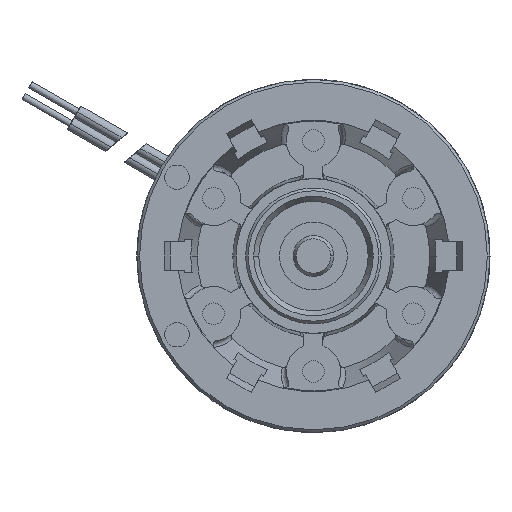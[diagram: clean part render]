
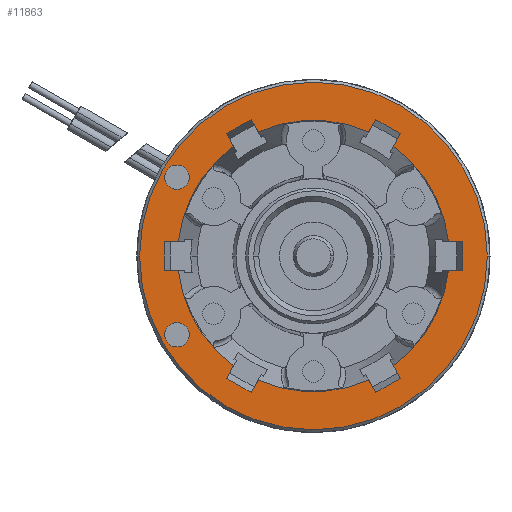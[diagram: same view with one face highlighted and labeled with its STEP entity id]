
A CAD part, left-side view. The second image highlights one B-rep face of the part: STEP entity #11863.
In plain terms, the highlighted planar face has unit normal (-1, 0, 0).
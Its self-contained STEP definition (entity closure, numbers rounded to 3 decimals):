
#3474=CARTESIAN_POINT('',(-1.6,9.945,1.05));
#3484=CARTESIAN_POINT('',(-1.6,0.,0.));
#3485=DIRECTION('',(1.,0.,0.));
#3486=DIRECTION('',(0.,0.994,0.105));
#3487=AXIS2_PLACEMENT_3D('',#3484,#3485,#3486);
#3538=CARTESIAN_POINT('',(-1.6,4.063,9.137));
#3548=CARTESIAN_POINT('',(-1.6,0.,0.));
#3549=DIRECTION('',(1.,0.,0.));
#3550=DIRECTION('',(0.,0.406,0.914));
#3551=AXIS2_PLACEMENT_3D('',#3548,#3549,#3550);
#3602=CARTESIAN_POINT('',(-1.6,-5.882,8.087));
#3612=CARTESIAN_POINT('',(-1.6,0.,0.));
#3613=DIRECTION('',(1.,0.,0.));
#3614=DIRECTION('',(0.,-0.588,0.809));
#3615=AXIS2_PLACEMENT_3D('',#3612,#3613,#3614);
#3676=CARTESIAN_POINT('',(-1.6,0.,0.));
#3677=DIRECTION('',(-1.,0.,0.));
#3678=DIRECTION('',(0.,0.994,-0.105));
#3679=AXIS2_PLACEMENT_3D('',#3676,#3677,#3678);
#3689=CARTESIAN_POINT('',(-1.6,9.945,-1.05));
#3816=CARTESIAN_POINT('',(-1.6,-9.945,-1.05));
#3826=CARTESIAN_POINT('',(-1.6,0.,0.));
#3827=DIRECTION('',(-1.,0.,0.));
#3828=DIRECTION('',(0.,-0.588,-0.809));
#3829=AXIS2_PLACEMENT_3D('',#3826,#3827,#3828);
#3880=CARTESIAN_POINT('',(-1.6,-4.063,-9.137));
#3890=CARTESIAN_POINT('',(-1.6,0.,0.));
#3891=DIRECTION('',(-1.,0.,0.));
#3892=DIRECTION('',(0.,0.406,-0.914));
#3893=AXIS2_PLACEMENT_3D('',#3890,#3891,#3892);
#3961=CARTESIAN_POINT('',(-1.6,0.,0.));
#3962=DIRECTION('',(-1.,0.,0.));
#3963=DIRECTION('',(0.,1.,0.));
#3964=AXIS2_PLACEMENT_3D('',#3961,#3962,#3963);
#3969=CARTESIAN_POINT('',(-1.6,0.,0.));
#3970=DIRECTION('',(-1.,0.,0.));
#3971=DIRECTION('',(0.,-1.,0.));
#3972=AXIS2_PLACEMENT_3D('',#3969,#3970,#3971);
#3977=CARTESIAN_POINT('',(-1.6,10.05,5.8));
#3978=DIRECTION('',(-1.,0.,0.));
#3979=DIRECTION('',(0.,0.,1.));
#3980=AXIS2_PLACEMENT_3D('',#3977,#3978,#3979);
#3985=CARTESIAN_POINT('',(-1.6,10.05,5.8));
#3986=DIRECTION('',(-1.,0.,0.));
#3987=DIRECTION('',(0.,0.,-1.));
#3988=AXIS2_PLACEMENT_3D('',#3985,#3986,#3987);
#3993=CARTESIAN_POINT('',(-1.6,10.05,-5.8));
#3994=DIRECTION('',(-1.,0.,0.));
#3995=DIRECTION('',(0.,0.,1.));
#3996=AXIS2_PLACEMENT_3D('',#3993,#3994,#3995);
#4001=CARTESIAN_POINT('',(-1.6,10.05,-5.8));
#4002=DIRECTION('',(-1.,0.,0.));
#4003=DIRECTION('',(0.,0.,-1.));
#4004=AXIS2_PLACEMENT_3D('',#4001,#4002,#4003);
#4009=DIRECTION('',(0.,-0.5,0.866));
#4010=VECTOR('',#4009,1.055);
#4011=CARTESIAN_POINT('',(-1.6,4.591,-10.051));
#4012=LINE('',#4011,#4010);
#4016=DIRECTION('',(0.,-0.5,-0.866));
#4017=VECTOR('',#4016,1.055);
#4018=CARTESIAN_POINT('',(-1.6,-4.063,-9.137));
#4019=LINE('',#4018,#4017);
#4023=DIRECTION('',(0.,0.866,-0.5));
#4024=VECTOR('',#4023,2.1);
#4025=CARTESIAN_POINT('',(-1.6,-6.409,-9.001));
#4026=LINE('',#4025,#4024);
#4030=DIRECTION('',(0.,0.5,0.866));
#4031=VECTOR('',#4030,1.055);
#4032=CARTESIAN_POINT('',(-1.6,-6.409,-9.001));
#4033=LINE('',#4032,#4031);
#4037=DIRECTION('',(0.,-1.,0.));
#4038=VECTOR('',#4037,1.055);
#4039=CARTESIAN_POINT('',(-1.6,-9.945,-1.05));
#4040=LINE('',#4039,#4038);
#4044=DIRECTION('',(0.,0.,-1.));
#4045=VECTOR('',#4044,2.1);
#4046=CARTESIAN_POINT('',(-1.6,-11.,1.05));
#4047=LINE('',#4046,#4045);
#4051=DIRECTION('',(0.,1.,0.));
#4052=VECTOR('',#4051,1.055);
#4053=CARTESIAN_POINT('',(-1.6,-11.,1.05));
#4054=LINE('',#4053,#4052);
#4058=DIRECTION('',(0.,-0.5,0.866));
#4059=VECTOR('',#4058,1.055);
#4060=CARTESIAN_POINT('',(-1.6,-5.882,8.087));
#4061=LINE('',#4060,#4059);
#4065=DIRECTION('',(0.,-0.866,-0.5));
#4066=VECTOR('',#4065,2.1);
#4067=CARTESIAN_POINT('',(-1.6,-4.591,10.051));
#4068=LINE('',#4067,#4066);
#4072=DIRECTION('',(0.,0.5,-0.866));
#4073=VECTOR('',#4072,1.055);
#4074=CARTESIAN_POINT('',(-1.6,-4.591,10.051));
#4075=LINE('',#4074,#4073);
#4079=DIRECTION('',(0.,0.5,0.866));
#4080=VECTOR('',#4079,1.055);
#4081=CARTESIAN_POINT('',(-1.6,4.063,9.137));
#4082=LINE('',#4081,#4080);
#4086=DIRECTION('',(0.,-0.866,0.5));
#4087=VECTOR('',#4086,2.1);
#4088=CARTESIAN_POINT('',(-1.6,6.409,9.001));
#4089=LINE('',#4088,#4087);
#4093=DIRECTION('',(0.,-0.5,-0.866));
#4094=VECTOR('',#4093,1.055);
#4095=CARTESIAN_POINT('',(-1.6,6.409,9.001));
#4096=LINE('',#4095,#4094);
#4100=DIRECTION('',(0.,1.,0.));
#4101=VECTOR('',#4100,1.055);
#4102=CARTESIAN_POINT('',(-1.6,9.945,1.05));
#4103=LINE('',#4102,#4101);
#4107=DIRECTION('',(0.,0.,1.));
#4108=VECTOR('',#4107,2.1);
#4109=CARTESIAN_POINT('',(-1.6,11.,-1.05));
#4110=LINE('',#4109,#4108);
#4114=DIRECTION('',(0.,-1.,0.));
#4115=VECTOR('',#4114,1.055);
#4116=CARTESIAN_POINT('',(-1.6,11.,-1.05));
#4117=LINE('',#4116,#4115);
#4121=DIRECTION('',(0.,0.5,-0.866));
#4122=VECTOR('',#4121,1.055);
#4123=CARTESIAN_POINT('',(-1.6,5.882,-8.087));
#4124=LINE('',#4123,#4122);
#4128=DIRECTION('',(0.,0.866,0.5));
#4129=VECTOR('',#4128,2.1);
#4130=CARTESIAN_POINT('',(-1.6,4.591,-10.051));
#4131=LINE('',#4130,#4129);
#8665=CARTESIAN_POINT('',(-1.6,12.8,0.));
#8666=CARTESIAN_POINT('',(-1.6,-12.8,0.));
#8667=VERTEX_POINT('',#8665);
#8668=VERTEX_POINT('',#8666);
#8681=CARTESIAN_POINT('',(-1.6,10.05,6.7));
#8682=CARTESIAN_POINT('',(-1.6,10.05,4.9));
#8683=VERTEX_POINT('',#8681);
#8684=VERTEX_POINT('',#8682);
#8685=CARTESIAN_POINT('',(-1.6,10.05,-4.9));
#8686=CARTESIAN_POINT('',(-1.6,10.05,-6.7));
#8687=VERTEX_POINT('',#8685);
#8688=VERTEX_POINT('',#8686);
#8915=VERTEX_POINT('',#3474);
#8916=VERTEX_POINT('',#3689);
#8917=CARTESIAN_POINT('',(-1.6,11.,-1.05));
#8918=VERTEX_POINT('',#8917);
#8919=CARTESIAN_POINT('',(-1.6,11.,1.05));
#8920=VERTEX_POINT('',#8919);
#9005=CARTESIAN_POINT('',(-1.6,5.882,8.087));
#9006=VERTEX_POINT('',#9005);
#9011=VERTEX_POINT('',#3538);
#9012=CARTESIAN_POINT('',(-1.6,6.409,9.001));
#9013=VERTEX_POINT('',#9012);
#9014=CARTESIAN_POINT('',(-1.6,4.591,10.051));
#9015=VERTEX_POINT('',#9014);
#9020=CARTESIAN_POINT('',(-1.6,-4.063,9.137));
#9021=VERTEX_POINT('',#9020);
#9026=VERTEX_POINT('',#3602);
#9027=CARTESIAN_POINT('',(-1.6,-4.591,10.051));
#9028=VERTEX_POINT('',#9027);
#9029=CARTESIAN_POINT('',(-1.6,-6.409,9.001));
#9030=VERTEX_POINT('',#9029);
#9037=CARTESIAN_POINT('',(-1.6,-9.945,1.05));
#9038=VERTEX_POINT('',#9037);
#9047=VERTEX_POINT('',#3816);
#9048=CARTESIAN_POINT('',(-1.6,-11.,1.05));
#9049=VERTEX_POINT('',#9048);
#9050=CARTESIAN_POINT('',(-1.6,-11.,-1.05));
#9051=VERTEX_POINT('',#9050);
#9056=CARTESIAN_POINT('',(-1.6,-5.882,-8.087));
#9057=VERTEX_POINT('',#9056);
#9062=VERTEX_POINT('',#3880);
#9063=CARTESIAN_POINT('',(-1.6,-6.409,-9.001));
#9064=VERTEX_POINT('',#9063);
#9065=CARTESIAN_POINT('',(-1.6,-4.591,-10.051));
#9066=VERTEX_POINT('',#9065);
#9071=CARTESIAN_POINT('',(-1.6,5.882,-8.087));
#9072=VERTEX_POINT('',#9071);
#9073=CARTESIAN_POINT('',(-1.6,4.063,-9.137));
#9074=VERTEX_POINT('',#9073);
#9079=CARTESIAN_POINT('',(-1.6,4.591,-10.051));
#9080=VERTEX_POINT('',#9079);
#9081=CARTESIAN_POINT('',(-1.6,6.409,-9.001));
#9082=VERTEX_POINT('',#9081);
#11798=CARTESIAN_POINT('',(-1.6,0.,0.));
#11799=DIRECTION('',(1.,0.,0.));
#11800=DIRECTION('',(0.,-1.,0.));
#11801=AXIS2_PLACEMENT_3D('',#11798,#11799,#11800);
#11802=PLANE('',#11801);
#11804=ORIENTED_EDGE('',*,*,#11803,.F.);
#11806=ORIENTED_EDGE('',*,*,#11805,.F.);
#11807=EDGE_LOOP('',(#11804,#11806));
#11808=FACE_OUTER_BOUND('',#11807,.F.);
#11810=ORIENTED_EDGE('',*,*,#11809,.T.);
#11812=ORIENTED_EDGE('',*,*,#11811,.T.);
#11813=EDGE_LOOP('',(#11810,#11812));
#11814=FACE_BOUND('',#11813,.F.);
#11816=ORIENTED_EDGE('',*,*,#11815,.T.);
#11818=ORIENTED_EDGE('',*,*,#11817,.T.);
#11819=EDGE_LOOP('',(#11816,#11818));
#11820=FACE_BOUND('',#11819,.F.);
#11821=ORIENTED_EDGE('',*,*,#11765,.T.);
#11822=ORIENTED_EDGE('',*,*,#11688,.T.);
#11824=ORIENTED_EDGE('',*,*,#11823,.T.);
#11826=ORIENTED_EDGE('',*,*,#11825,.F.);
#11828=ORIENTED_EDGE('',*,*,#11827,.T.);
#11829=ORIENTED_EDGE('',*,*,#11672,.T.);
#11831=ORIENTED_EDGE('',*,*,#11830,.T.);
#11833=ORIENTED_EDGE('',*,*,#11832,.F.);
#11835=ORIENTED_EDGE('',*,*,#11834,.T.);
#11836=ORIENTED_EDGE('',*,*,#11598,.F.);
#11838=ORIENTED_EDGE('',*,*,#11837,.T.);
#11840=ORIENTED_EDGE('',*,*,#11839,.F.);
#11842=ORIENTED_EDGE('',*,*,#11841,.T.);
#11843=ORIENTED_EDGE('',*,*,#11582,.F.);
#11845=ORIENTED_EDGE('',*,*,#11844,.T.);
#11847=ORIENTED_EDGE('',*,*,#11846,.F.);
#11849=ORIENTED_EDGE('',*,*,#11848,.T.);
#11850=ORIENTED_EDGE('',*,*,#11566,.F.);
#11852=ORIENTED_EDGE('',*,*,#11851,.T.);
#11854=ORIENTED_EDGE('',*,*,#11853,.F.);
#11856=ORIENTED_EDGE('',*,*,#11855,.T.);
#11857=ORIENTED_EDGE('',*,*,#11627,.T.);
#11859=ORIENTED_EDGE('',*,*,#11858,.T.);
#11860=ORIENTED_EDGE('',*,*,#11782,.F.);
#11861=EDGE_LOOP('',(#11821,#11822,#11824,#11826,#11828,#11829,#11831,#11833,
#11835,#11836,#11838,#11840,#11842,#11843,#11845,#11847,#11849,#11850,#11852,
#11854,#11856,#11857,#11859,#11860));
#11862=FACE_BOUND('',#11861,.F.);
#11863=ADVANCED_FACE('',(#11808,#11814,#11820,#11862),#11802,.F.);
#3488=CIRCLE('',#3487,10.);
#3552=CIRCLE('',#3551,10.);
#3616=CIRCLE('',#3615,10.);
#3680=CIRCLE('',#3679,10.);
#3830=CIRCLE('',#3829,10.);
#3894=CIRCLE('',#3893,10.);
#3965=CIRCLE('',#3964,12.8);
#3973=CIRCLE('',#3972,12.8);
#3981=CIRCLE('',#3980,0.9);
#3989=CIRCLE('',#3988,0.9);
#3997=CIRCLE('',#3996,0.9);
#4005=CIRCLE('',#4004,0.9);
#11566=EDGE_CURVE('',#8915,#9006,#3488,.T.);
#11582=EDGE_CURVE('',#9011,#9021,#3552,.T.);
#11598=EDGE_CURVE('',#9026,#9038,#3616,.T.);
#11627=EDGE_CURVE('',#8916,#9072,#3680,.T.);
#11672=EDGE_CURVE('',#9057,#9047,#3830,.T.);
#11688=EDGE_CURVE('',#9074,#9062,#3894,.T.);
#11765=EDGE_CURVE('',#9080,#9074,#4012,.T.);
#11782=EDGE_CURVE('',#9080,#9082,#4131,.T.);
#11803=EDGE_CURVE('',#8667,#8668,#3965,.T.);
#11805=EDGE_CURVE('',#8668,#8667,#3973,.T.);
#11809=EDGE_CURVE('',#8683,#8684,#3981,.T.);
#11811=EDGE_CURVE('',#8684,#8683,#3989,.T.);
#11815=EDGE_CURVE('',#8687,#8688,#3997,.T.);
#11817=EDGE_CURVE('',#8688,#8687,#4005,.T.);
#11823=EDGE_CURVE('',#9062,#9066,#4019,.T.);
#11825=EDGE_CURVE('',#9064,#9066,#4026,.T.);
#11827=EDGE_CURVE('',#9064,#9057,#4033,.T.);
#11830=EDGE_CURVE('',#9047,#9051,#4040,.T.);
#11832=EDGE_CURVE('',#9049,#9051,#4047,.T.);
#11834=EDGE_CURVE('',#9049,#9038,#4054,.T.);
#11837=EDGE_CURVE('',#9026,#9030,#4061,.T.);
#11839=EDGE_CURVE('',#9028,#9030,#4068,.T.);
#11841=EDGE_CURVE('',#9028,#9021,#4075,.T.);
#11844=EDGE_CURVE('',#9011,#9015,#4082,.T.);
#11846=EDGE_CURVE('',#9013,#9015,#4089,.T.);
#11848=EDGE_CURVE('',#9013,#9006,#4096,.T.);
#11851=EDGE_CURVE('',#8915,#8920,#4103,.T.);
#11853=EDGE_CURVE('',#8918,#8920,#4110,.T.);
#11855=EDGE_CURVE('',#8918,#8916,#4117,.T.);
#11858=EDGE_CURVE('',#9072,#9082,#4124,.T.);
